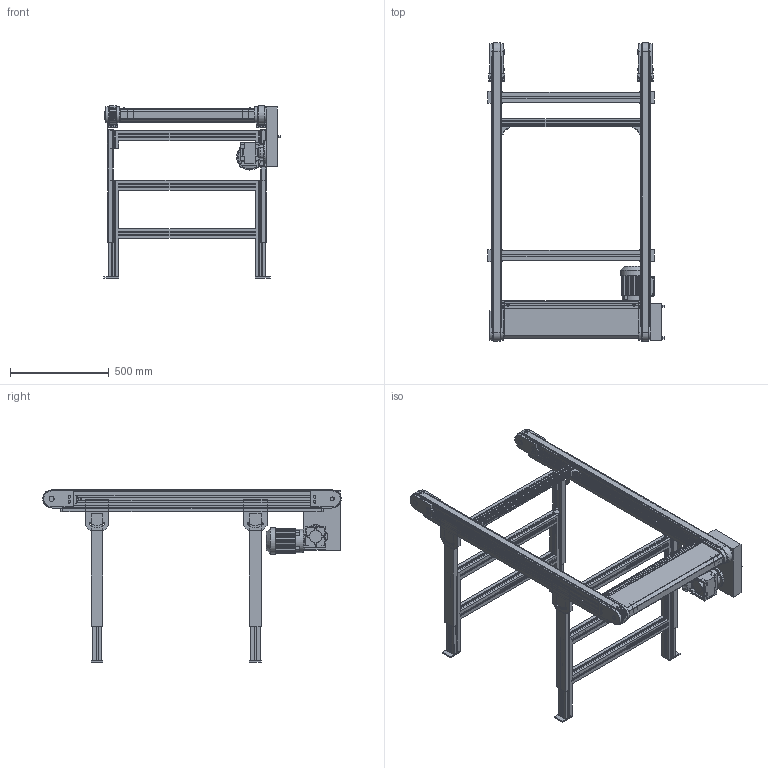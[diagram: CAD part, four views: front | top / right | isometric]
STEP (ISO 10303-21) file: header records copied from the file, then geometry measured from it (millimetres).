
FILE_DESCRIPTION(/* description */ (''),/* implementation_level */ '2;1');
FILE_NAME(/* name */ 'C:\Marketing\01_Versamove-SPU_STEP-Dateien-Homepage\Versamove plus\STEP-Dateien\Zahnriemenförderer_ZRF-P-2010_B800_L1500.stp',/* time_stamp */ '2016-12-22T11:04:08+01:00',/* author */ ('herbert.engels'),/* organization */ (''),/* preprocessor_version */ 'ST-DEVELOPER v15.6',/* originating_system */ 'Autodesk Inventor 2015',/* authorisation */ '');
FILE_SCHEMA (('CONFIG_CONTROL_DESIGN'));
Products named in the file (1): Zahnriemenförderer_ZRF-P-2010_B800_L1500
Bounding box: 890.65 x 1511.13 x 870.56 mm (x, y, z)
Volume: 32356506.4 mm3; surface area: 7459469.3 mm2
Topology: 3 solids, 3 shells, 3688 faces, 11037 edges, 7160 vertices
Faces by surface type: plane 2532, cylinder 855, bspline 172, cone 116, torus 11, sphere 2
Full cylindrical faces by diameter (mm): 7 x4, 8 x32, 13 x12, 16.2 x4, 19 x2, 20 x5, 24 x1, 25.5 x4, 30 x1, 35 x6, 40 x4, 56 x2, 72 x1, 87.127 x1, 117 x1, 120 x1, 132 x1
Entity records: 130476 total; most frequent: CARTESIAN_POINT 27944, ORIENTED_EDGE 21770, DIRECTION 19398, EDGE_CURVE 10875, LINE 7932, VECTOR 7932, VERTEX_POINT 7122, AXIS2_PLACEMENT_3D 5733
